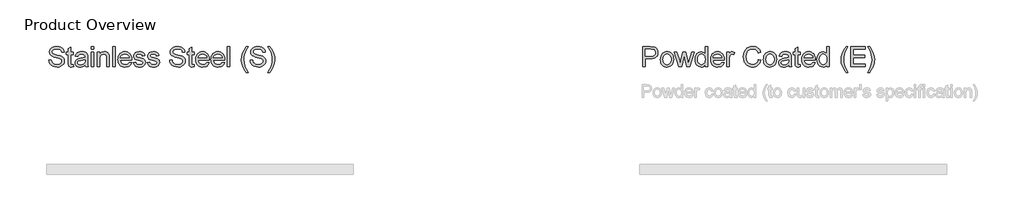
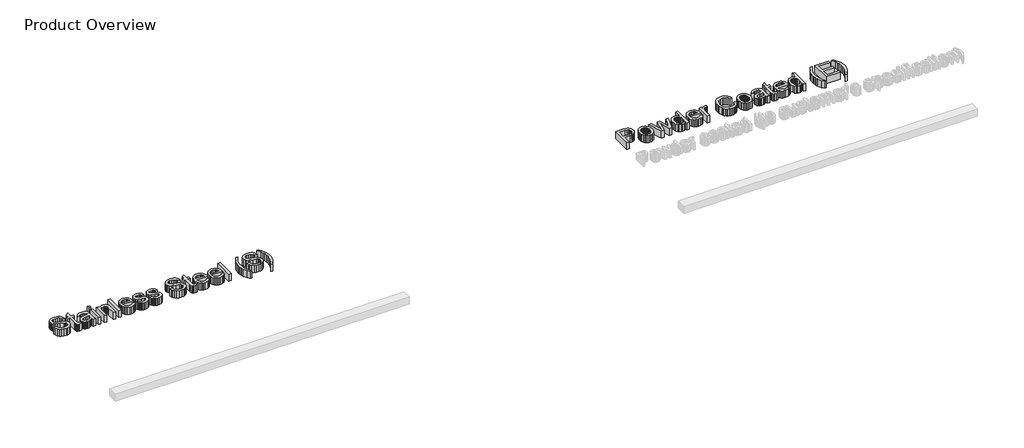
# One storey, part 3 of 11: 2 proxies.
"""IFC4 building model written with IfcOpenShell, lengths in millimetres."""

from ifc_helpers import new_model, si_unit, origin, origin_with_axes, place, context, project, spatial, polyline, outline, extrude, element, save

model = new_model("IFC4")

# Units and contexts
model_context = context("Model", 3, world=origin())
ifc_project = project(units=[si_unit("LENGTHUNIT", "METRE", prefix="MILLI")], contexts=[model_context])

# Site, building, storey
site = spatial("IfcSite", under=ifc_project)
building = spatial("IfcBuilding", under=site)
storey = spatial("IfcBuildingStorey", under=building, Name="Product Overview", Elevation=0.0)

# Proxies
placement = place(None, origin())
element("IfcBuildingElementProxy", 1, Name="400.0", ObjectType="400.0", at=placement, inside=storey, context=model_context, shape_type="SweptSolid", body=[
    extrude(outline(polyline([(-16012.1854011, -17159.1695492), (-15963.2157041, -17159.1695492), (-15957.5966227, -17186.3443834), (-15947.4344541, -17208.1870681), (-15931.5814712, -17225.5225321), (-15908.8899465, -17239.1757045), (-15881.1532041, -17248.0347243), (-15850.1645678, -17250.987731), (-15822.882134, -17248.7520539), (-15798.9950602, -17242.0450226), (-15779.639118, -17231.4285454), (-15765.9500791, -17217.4645302), (-15757.8083888, -17201.4322149), (-15755.094492, -17184.610837), (-15757.1269257, -17168.2198569), (-15763.2242269, -17154.0525984), (-15775.610117, -17141.9655956), (-15796.5083178, -17131.8153825), (-15867.8108746, -17113.1169923), (-15914.6166274, -17100.7430577), (-15944.5651359, -17088.9668976), (-15968.942385, -17072.4922291), (-15986.2180715, -17052.5265567), (-15996.5117505, -17029.5002783), (-15999.9429769, -17003.8437916), (-15995.698777, -16975.1625653), (-15982.9661776, -16948.4181287), (-15962.0799323, -16925.7505151), (-15933.374795, -16909.2997575), (-15898.9190659, -16899.2930103), (-15860.781045, -16895.9574279), (-15819.4628632, -16899.4484317), (-15783.3094541, -16909.9214431), (-15753.6120109, -16927.1612632), (-15731.6617269, -16950.9526931), (-15717.7694447, -16979.8132518), (-15712.2460072, -17012.2604582), (-15761.2157041, -17012.2604582), (-15770.2062344, -16983.0412348), (-15788.9524465, -16961.9517461), (-15818.243403, -16949.1832802), (-15858.8681662, -16944.9271249), (-15900.4493689, -16949.1354582), (-15916.3441961, -16954.3958749), (-15928.9751738, -16961.7604582), (-15945.4737534, -16980.3392935), (-15950.9732799, -17002.4091325), (-15947.0757894, -17021.2270776), (-15935.3833178, -17036.362731), (-15907.7422193, -17049.8963484), (-15855.4249844, -17063.7168976), (-15801.4339806, -17076.8440283), (-15768.7715753, -17088.2973901), (-15740.8555005, -17106.0632518), (-15721.3800034, -17127.9896249), (-15709.9385971, -17153.8373995), (-15706.124795, -17183.3674658), (-15710.5124608, -17213.5550842), (-15723.6754579, -17241.9493787), (-15745.0757894, -17266.3864052), (-15774.1754579, -17284.7022196), (-15809.1691842, -17296.1436259), (-15848.251689, -17299.9574279), (-15896.2290801, -17295.8447386), (-15935.7180715, -17283.5066704), (-15967.1729721, -17262.8954014), (-15991.0480905, -17233.9631098), (-16006.3750318, -17198.7183181), (-16012.1854011, -17159.1695492)])), origin_with_axes(), (0.0, 0.0, 1.0), 150.0),
    extrude(outline(polyline([(-15534.7308556, -17252.9962537), (-15528.6096435, -17295.2708749), (-15565.2412723, -17299.9574279), (-15588.7457704, -17297.9249942), (-15606.2725223, -17291.8276931), (-15618.6584125, -17282.4306761), (-15626.7403253, -17270.4990946), (-15631.1877685, -17250.0073806), (-15632.6702496, -17214.9299658), (-15632.6702496, -17055.1089431), (-15669.3975223, -17055.1089431), (-15669.3975223, -17006.1392461), (-15632.6702496, -17006.1392461), (-15632.6702496, -16936.2235264), (-15583.7005526, -16907.4347007), (-15583.7005526, -17006.1392461), (-15534.7308556, -17006.1392461), (-15534.7308556, -17055.1089431), (-15583.7005526, -17055.1089431), (-15583.7005526, -17213.4953067), (-15581.1181662, -17238.7453067), (-15572.7493215, -17247.6880151), (-15556.0594541, -17250.987731), (-15534.7308556, -17252.9962537)])), origin_with_axes(), (0.0, 0.0, 1.0), 150.0),
    extrude(outline(polyline([(-15302.124795, -17257.1089431), (-15325.5216937, -17277.1702594), (-15349.6120109, -17290.2973901), (-15374.9456994, -17297.5424185), (-15402.0727117, -17299.9574279), (-15423.876541, -17298.5048356), (-15442.9963623, -17294.1470586), (-15459.4321755, -17286.884097), (-15473.1839806, -17276.7159507), (-15484.0425566, -17264.2882163), (-15491.7986823, -17250.2464904), (-15496.4523578, -17234.5907731), (-15498.0035829, -17217.3210643), (-15495.6603064, -17197.0206382), (-15488.6304769, -17178.5852689), (-15477.7868452, -17162.8040189), (-15464.0021625, -17150.4659507), (-15429.7138102, -17134.3977689), (-15387.343545, -17127.0331855), (-15337.2739428, -17119.2860264), (-15302.4117269, -17110.1998522), (-15302.124795, -17099.2964431), (-15305.4962439, -17077.4418029), (-15315.6105905, -17063.143034), (-15338.2303822, -17052.5265567), (-15369.7450602, -17048.987731), (-15398.9164617, -17051.342963), (-15419.2886208, -17058.408659), (-15433.180903, -17071.4760122), (-15442.9126738, -17091.8362158), (-15491.8823708, -17085.7150037), (-15483.3820157, -17058.9347007), (-15470.6972382, -17037.893034), (-15452.6444447, -17021.8009412), (-15428.0400412, -17009.8693598), (-15397.9480668, -17002.4808654), (-15363.4325602, -17000.018034), (-15330.3278017, -17002.1939336), (-15304.0854958, -17008.7216325), (-15284.2991558, -17018.5370918), (-15270.562295, -17030.5762726), (-15261.4522098, -17045.4608607), (-15255.5461965, -17063.8125416), (-15253.1550981, -17106.6610264), (-15253.1550981, -17167.5862158), (-15250.6683556, -17252.6614999), (-15240.9126738, -17293.8362158), (-15289.8823708, -17293.8362158), (-15297.7251738, -17276.8115946), (-15302.124795, -17257.1089431)]), holes=[polyline([(-15302.124795, -17159.1695492), (-15335.0263102, -17167.323195), (-15381.126689, -17174.1856476), (-15423.2578443, -17182.1240946), (-15434.2210308, -17187.5518882), (-15442.3388102, -17195.0360264), (-15447.360117, -17204.0026457), (-15449.0338859, -17213.8778825), (-15445.3874608, -17228.4396723), (-15434.4481852, -17240.3712537), (-15416.4551691, -17248.3336117), (-15391.6475223, -17250.987731), (-15365.345439, -17248.0586353), (-15342.1039617, -17239.2713484), (-15323.2621056, -17226.3235501), (-15310.1588859, -17210.9129204), (-15304.3485166, -17195.0360264), (-15302.4117269, -17173.0379204), (-15302.124795, -17159.1695492)])]), origin_with_axes(), (0.0, 0.0, 1.0), 150.0),
    extrude(outline(polyline([(-15185.8217647, -17293.8362158), (-15185.8217647, -17006.1392461), (-15136.8520678, -17006.1392461), (-15136.8520678, -17293.8362158), (-15185.8217647, -17293.8362158)])), origin_with_axes(), (0.0, 0.0, 1.0), 150.0),
    extrude(outline(polyline([(-15185.8217647, -16951.048337), (-15185.8217647, -16902.0786401), (-15136.8520678, -16902.0786401), (-15136.8520678, -16951.048337), (-15185.8217647, -16951.048337)])), origin_with_axes(), (0.0, 0.0, 1.0), 150.0),
    extrude(outline(polyline([(-15063.3975223, -17293.8362158), (-15063.3975223, -17006.1392461), (-15014.4278253, -17006.1392461), (-15014.4278253, -17046.3097007), (-14997.4151596, -17026.0570965), (-14976.9832231, -17011.5909507), (-14953.1320157, -17002.9112632), (-14925.8615375, -17000.018034), (-14901.7233983, -17002.349355), (-14879.6176928, -17009.3433181), (-14861.1823234, -17020.1271723), (-14848.0551928, -17033.8281666), (-14839.1483509, -17050.4104346), (-14833.3738481, -17069.8381098), (-14830.7914617, -17117.1818598), (-14830.7914617, -17293.8362158), (-14879.7611587, -17293.8362158), (-14879.7611587, -17123.7812916), (-14881.1719068, -17098.4595586), (-14885.4041511, -17080.454587), (-14893.2110876, -17067.5546107), (-14905.3459125, -17057.5478636), (-14920.9000081, -17051.1277641), (-14938.9647572, -17048.987731), (-14967.6459835, -17053.7938389), (-14992.0949655, -17068.2121628), (-15001.8655917, -17079.9823451), (-15008.8446104, -17096.0684601), (-15013.0320216, -17116.470508), (-15014.4278253, -17141.1884886), (-15014.4278253, -17293.8362158), (-15063.3975223, -17293.8362158)])), origin_with_axes(), (0.0, 0.0, 1.0), 150.0),
    extrude(outline(polyline([(-14763.4581284, -17293.8362158), (-14763.4581284, -16902.0786401), (-14714.4884314, -16902.0786401), (-14714.4884314, -17293.8362158), (-14763.4581284, -17293.8362158)])), origin_with_axes(), (0.0, 0.0, 1.0), 150.0),
    extrude(outline(polyline([(-14439.6077496, -17208.1392461), (-14391.594492, -17214.2604582), (-14398.9560865, -17233.4908678), (-14408.8940895, -17250.4377783), (-14421.4085012, -17265.1011898), (-14436.4993215, -17277.4811022), (-14454.0111291, -17287.3144947), (-14473.7885024, -17294.3383465), (-14520.1399465, -17299.9574279), (-14550.5248305, -17297.5334519), (-14577.5980431, -17290.2615236), (-14601.3595843, -17278.1416431), (-14621.8094541, -17261.1738105), (-14638.254234, -17239.8302677), (-14650.0005053, -17214.5832565), (-14657.048268, -17185.4327771), (-14659.3975223, -17152.3788295), (-14657.0243571, -17118.2040544), (-14649.9048613, -17088.0821912), (-14638.0390351, -17062.01324), (-14621.4268784, -17039.9972007), (-14601.0308083, -17022.5063153), (-14577.813242, -17010.0128257), (-14551.7741795, -17002.5167319), (-14522.9136208, -17000.018034), (-14494.9826016, -17002.5107542), (-14469.723635, -17009.9889147), (-14447.1367209, -17022.4525155), (-14427.2218594, -17039.9015567), (-14410.9653786, -17061.8697741), (-14399.3536066, -17087.8909033), (-14392.3865434, -17117.9649445), (-14390.064189, -17152.0918976), (-14390.3511208, -17165.2907613), (-14610.4278253, -17165.2907613), (-14607.5913848, -17184.8320136), (-14601.9513812, -17201.9463011), (-14593.5078147, -17216.6336235), (-14582.2606852, -17228.893981), (-14553.8424797, -17245.4642935), (-14519.1835072, -17250.987731), (-14493.1205337, -17248.4292556), (-14471.1702496, -17240.7538295), (-14453.3326549, -17227.4832329), (-14439.6077496, -17208.1392461)]), holes=[polyline([(-14610.4278253, -17116.3210643), (-14439.0338859, -17116.3210643), (-14445.6572287, -17090.4493787), (-14458.6408935, -17071.9422764), (-14471.9951786, -17061.8996628), (-14487.1906094, -17054.7263673), (-14523.1049087, -17048.987731), (-14556.1140233, -17053.5666846), (-14583.4084125, -17067.3035454), (-14602.3817789, -17088.7158323), (-14610.4278253, -17116.3210643)])]), origin_with_axes(), (0.0, 0.0, 1.0), 150.0),
    extrude(outline(polyline([(-14359.4581284, -17208.1392461), (-14310.4884314, -17202.018034), (-14302.7651833, -17222.9640567), (-14287.8208178, -17238.362731), (-14265.5596909, -17247.831481), (-14235.8861587, -17250.987731), (-14206.5712912, -17248.0945018), (-14185.9600223, -17239.4148143), (-14173.76542, -17226.8376363), (-14169.7005526, -17212.2519355), (-14173.789331, -17199.7704014), (-14186.0556662, -17190.2538295), (-14236.4600223, -17176.2898143), (-14310.2014996, -17152.3310075), (-14328.8640233, -17140.2918266), (-14342.3856852, -17124.3551552), (-14350.5991085, -17105.5372101), (-14353.3369162, -17084.8542082), (-14351.1371056, -17065.8808418), (-14344.5376738, -17048.3660454), (-14334.1363954, -17033.0032376), (-14320.531045, -17020.485837), (-14289.3989428, -17005.9957802), (-14247.2677875, -17000.018034), (-14215.3944447, -17002.421088), (-14187.6816132, -17009.6302499), (-14165.3965753, -17020.9401457), (-14149.8066132, -17035.6454014), (-14139.4770678, -17054.8339668), (-14132.9732799, -17079.5937916), (-14181.9429769, -17085.7150037), (-14188.1239664, -17070.304374), (-14200.3544352, -17058.6955908), (-14218.753938, -17051.4146959), (-14243.4420299, -17048.987731), (-14271.5613481, -17051.3070965), (-14290.3075602, -17058.2651931), (-14300.8523045, -17068.3078067), (-14304.3672193, -17079.8807234), (-14298.532939, -17094.1316704), (-14280.2649465, -17104.9394355), (-14238.0859693, -17115.3646249), (-14166.2095488, -17138.4148143), (-14147.2242269, -17149.4377783), (-14132.829814, -17164.5256098), (-14123.7555952, -17183.7261306), (-14120.7308556, -17207.0871628), (-14124.2816369, -17231.2372575), (-14134.9339806, -17253.9526931), (-14152.2814001, -17273.4521012), (-14175.9174087, -17287.9541136), (-14204.4671246, -17296.9565993), (-14236.5556662, -17299.9574279), (-14262.9115493, -17298.5108134), (-14285.93185, -17294.1709696), (-14305.6165682, -17286.9378967), (-14321.9657041, -17276.8115946), (-14335.3199892, -17263.8398853), (-14346.0201549, -17248.0705908), (-14354.0662013, -17229.5037111), (-14359.4581284, -17208.1392461)])), origin_with_axes(), (0.0, 0.0, 1.0), 150.0),
    extrude(outline(polyline([(-14084.0035829, -17208.1392461), (-14035.0338859, -17202.018034), (-14027.3106378, -17222.9640567), (-14012.3662723, -17238.362731), (-13990.1051454, -17247.831481), (-13960.4316132, -17250.987731), (-13931.1167458, -17248.0945018), (-13910.5054769, -17239.4148143), (-13898.3108746, -17226.8376363), (-13894.2460072, -17212.2519355), (-13898.3347856, -17199.7704014), (-13910.6011208, -17190.2538295), (-13961.0054769, -17176.2898143), (-14034.7469541, -17152.3310075), (-14053.4094778, -17140.2918266), (-14066.9311397, -17124.3551552), (-14075.144563, -17105.5372101), (-14077.8823708, -17084.8542082), (-14075.6825602, -17065.8808418), (-14069.0831284, -17048.3660454), (-14058.68185, -17033.0032376), (-14045.0764996, -17020.485837), (-14013.9443973, -17005.9957802), (-13971.813242, -17000.018034), (-13939.9398992, -17002.421088), (-13912.2270678, -17009.6302499), (-13889.9420299, -17020.9401457), (-13874.3520678, -17035.6454014), (-13864.0225223, -17054.8339668), (-13857.5187344, -17079.5937916), (-13906.4884314, -17085.7150037), (-13912.669421, -17070.304374), (-13924.8998897, -17058.6955908), (-13943.2993926, -17051.4146959), (-13967.9874844, -17048.987731), (-13996.1068026, -17051.3070965), (-14014.8530147, -17058.2651931), (-14025.397759, -17068.3078067), (-14028.9126738, -17079.8807234), (-14023.0783935, -17094.1316704), (-14004.8104011, -17104.9394355), (-13962.6314238, -17115.3646249), (-13890.7550034, -17138.4148143), (-13871.7696814, -17149.4377783), (-13857.3752685, -17164.5256098), (-13848.3010498, -17183.7261306), (-13845.2763102, -17207.0871628), (-13848.8270914, -17231.2372575), (-13859.4794352, -17253.9526931), (-13876.8268547, -17273.4521012), (-13900.4628632, -17287.9541136), (-13929.0125791, -17296.9565993), (-13961.1011208, -17299.9574279), (-13987.4570038, -17298.5108134), (-14010.4773045, -17294.1709696), (-14030.1620228, -17286.9378967), (-14046.5111587, -17276.8115946), (-14059.8654437, -17263.8398853), (-14070.5656094, -17248.0705908), (-14078.6116558, -17229.5037111), (-14084.0035829, -17208.1392461)])), origin_with_axes(), (0.0, 0.0, 1.0), 150.0),
    extrude(outline(polyline([(-13649.3975223, -17159.1695492), (-13600.4278253, -17159.1695492), (-13594.8087439, -17186.3443834), (-13584.6465753, -17208.1870681), (-13568.7935924, -17225.5225321), (-13546.1020678, -17239.1757045), (-13518.3653253, -17248.0347243), (-13487.376689, -17250.987731), (-13460.0942553, -17248.7520539), (-13436.2071814, -17242.0450226), (-13416.8512392, -17231.4285454), (-13403.1622003, -17217.4645302), (-13395.02051, -17201.4322149), (-13392.3066132, -17184.610837), (-13394.3390469, -17168.2198569), (-13400.4363481, -17154.0525984), (-13412.8222382, -17141.9655956), (-13433.720439, -17131.8153825), (-13505.0229958, -17113.1169923), (-13551.8287486, -17100.7430577), (-13581.7772572, -17088.9668976), (-13606.1545062, -17072.4922291), (-13623.4301928, -17052.5265567), (-13633.7238717, -17029.5002783), (-13637.1550981, -17003.8437916), (-13632.9108983, -16975.1625653), (-13620.1782988, -16948.4181287), (-13599.2920536, -16925.7505151), (-13570.5869162, -16909.2997575), (-13536.1311871, -16899.2930103), (-13497.9931662, -16895.9574279), (-13456.6749844, -16899.4484317), (-13420.5215753, -16909.9214431), (-13390.8241322, -16927.1612632), (-13368.8738481, -16950.9526931), (-13354.9815659, -16979.8132518), (-13349.4581284, -17012.2604582), (-13398.4278253, -17012.2604582), (-13407.4183556, -16983.0412348), (-13426.1645678, -16961.9517461), (-13455.4555242, -16949.1832802), (-13496.0802875, -16944.9271249), (-13537.6614901, -16949.1354582), (-13553.5563173, -16954.3958749), (-13566.187295, -16961.7604582), (-13582.6858746, -16980.3392935), (-13588.1854011, -17002.4091325), (-13584.2879106, -17021.2270776), (-13572.595439, -17036.362731), (-13544.9543405, -17049.8963484), (-13492.6371056, -17063.7168976), (-13438.6461019, -17076.8440283), (-13405.9836965, -17088.2973901), (-13378.0676217, -17106.0632518), (-13358.5921246, -17127.9896249), (-13347.1507183, -17153.8373995), (-13343.3369162, -17183.3674658), (-13347.724582, -17213.5550842), (-13360.8875791, -17241.9493787), (-13382.2879106, -17266.3864052), (-13411.3875791, -17284.7022196), (-13446.3813055, -17296.1436259), (-13485.4638102, -17299.9574279), (-13533.4412013, -17295.8447386), (-13572.9301928, -17283.5066704), (-13604.3850933, -17262.8954014), (-13628.2602117, -17233.9631098), (-13643.587153, -17198.7183181), (-13649.3975223, -17159.1695492)])), origin_with_axes(), (0.0, 0.0, 1.0), 150.0),
    extrude(outline(polyline([(-13171.9429769, -17252.9962537), (-13165.8217647, -17295.2708749), (-13202.4533935, -17299.9574279), (-13225.9578916, -17297.9249942), (-13243.4846435, -17291.8276931), (-13255.8705337, -17282.4306761), (-13263.9524465, -17270.4990946), (-13268.3998897, -17250.0073806), (-13269.8823708, -17214.9299658), (-13269.8823708, -17055.1089431), (-13306.6096435, -17055.1089431), (-13306.6096435, -17006.1392461), (-13269.8823708, -17006.1392461), (-13269.8823708, -16936.2235264), (-13220.9126738, -16907.4347007), (-13220.9126738, -17006.1392461), (-13171.9429769, -17006.1392461), (-13171.9429769, -17055.1089431), (-13220.9126738, -17055.1089431), (-13220.9126738, -17213.4953067), (-13218.3302875, -17238.7453067), (-13209.9614428, -17247.6880151), (-13193.2715753, -17250.987731), (-13171.9429769, -17252.9962537)])), origin_with_axes(), (0.0, 0.0, 1.0), 150.0),
    extrude(outline(polyline([(-12921.5471435, -17208.1392461), (-12873.5338859, -17214.2604582), (-12880.8954804, -17233.4908678), (-12890.8334835, -17250.4377783), (-12903.3478952, -17265.1011898), (-12918.4387155, -17277.4811022), (-12935.950523, -17287.3144947), (-12955.7278964, -17294.3383465), (-13002.0793405, -17299.9574279), (-13032.4642245, -17297.5334519), (-13059.5374371, -17290.2615236), (-13083.2989783, -17278.1416431), (-13103.7488481, -17261.1738105), (-13120.1936279, -17239.8302677), (-13131.9398992, -17214.5832565), (-13138.987662, -17185.4327771), (-13141.3369162, -17152.3788295), (-13138.963751, -17118.2040544), (-13131.8442553, -17088.0821912), (-13119.978429, -17062.01324), (-13103.3662723, -17039.9972007), (-13082.9702022, -17022.5063153), (-13059.7526359, -17010.0128257), (-13033.7135734, -17002.5167319), (-13004.8530147, -17000.018034), (-12976.9219956, -17002.5107542), (-12951.6630289, -17009.9889147), (-12929.0761149, -17022.4525155), (-12909.1612534, -17039.9015567), (-12892.9047725, -17061.8697741), (-12881.2930005, -17087.8909033), (-12874.3259373, -17117.9649445), (-12872.0035829, -17152.0918976), (-12872.2905147, -17165.2907613), (-13092.3672193, -17165.2907613), (-13089.5307787, -17184.8320136), (-13083.8907751, -17201.9463011), (-13075.4472086, -17216.6336235), (-13064.2000791, -17228.893981), (-13035.7818736, -17245.4642935), (-13001.1229011, -17250.987731), (-12975.0599276, -17248.4292556), (-12953.1096435, -17240.7538295), (-12935.2720488, -17227.4832329), (-12921.5471435, -17208.1392461)]), holes=[polyline([(-13092.3672193, -17116.3210643), (-12920.9732799, -17116.3210643), (-12927.5966227, -17090.4493787), (-12940.5802875, -17071.9422764), (-12953.9345725, -17061.8996628), (-12969.1300034, -17054.7263673), (-13005.0443026, -17048.987731), (-13038.0534172, -17053.5666846), (-13065.3478064, -17067.3035454), (-13084.3211729, -17088.7158323), (-13092.3672193, -17116.3210643)])]), origin_with_axes(), (0.0, 0.0, 1.0), 150.0),
    extrude(outline(polyline([(-12621.6077496, -17208.1392461), (-12573.594492, -17214.2604582), (-12580.9560865, -17233.4908678), (-12590.8940895, -17250.4377783), (-12603.4085012, -17265.1011898), (-12618.4993215, -17277.4811022), (-12636.0111291, -17287.3144947), (-12655.7885024, -17294.3383465), (-12702.1399465, -17299.9574279), (-12732.5248305, -17297.5334519), (-12759.5980431, -17290.2615236), (-12783.3595843, -17278.1416431), (-12803.8094541, -17261.1738105), (-12820.254234, -17239.8302677), (-12832.0005053, -17214.5832565), (-12839.048268, -17185.4327771), (-12841.3975223, -17152.3788295), (-12839.0243571, -17118.2040544), (-12831.9048613, -17088.0821912), (-12820.0390351, -17062.01324), (-12803.4268784, -17039.9972007), (-12783.0308083, -17022.5063153), (-12759.813242, -17010.0128257), (-12733.7741795, -17002.5167319), (-12704.9136208, -17000.018034), (-12676.9826016, -17002.5107542), (-12651.723635, -17009.9889147), (-12629.1367209, -17022.4525155), (-12609.2218594, -17039.9015567), (-12592.9653786, -17061.8697741), (-12581.3536066, -17087.8909033), (-12574.3865434, -17117.9649445), (-12572.064189, -17152.0918976), (-12572.3511208, -17165.2907613), (-12792.4278253, -17165.2907613), (-12789.5913848, -17184.8320136), (-12783.9513812, -17201.9463011), (-12775.5078147, -17216.6336235), (-12764.2606852, -17228.893981), (-12735.8424797, -17245.4642935), (-12701.1835072, -17250.987731), (-12675.1205337, -17248.4292556), (-12653.1702496, -17240.7538295), (-12635.3326549, -17227.4832329), (-12621.6077496, -17208.1392461)]), holes=[polyline([(-12792.4278253, -17116.3210643), (-12621.0338859, -17116.3210643), (-12627.6572287, -17090.4493787), (-12640.6408935, -17071.9422764), (-12653.9951786, -17061.8996628), (-12669.1906094, -17054.7263673), (-12705.1049087, -17048.987731), (-12738.1140233, -17053.5666846), (-12765.4084125, -17067.3035454), (-12784.3817789, -17088.7158323), (-12792.4278253, -17116.3210643)])]), origin_with_axes(), (0.0, 0.0, 1.0), 150.0),
    extrude(outline(polyline([(-12523.094492, -17293.8362158), (-12523.094492, -16902.0786401), (-12474.124795, -16902.0786401), (-12474.124795, -17293.8362158), (-12523.094492, -17293.8362158)])), origin_with_axes(), (0.0, 0.0, 1.0), 150.0),
    extrude(outline(polyline([(-12149.7005526, -17404.018034), (-12187.6472856, -17350.7682707), (-12219.2336965, -17289.1496628), (-12231.6614309, -17255.9492603), (-12240.538384, -17222.1510832), (-12245.8645559, -17187.7551315), (-12247.6399465, -17152.7614052), (-12242.3317079, -17091.9079488), (-12226.406992, -17033.6847007), (-12194.79667, -16967.7382045), (-12149.7005526, -16902.0786401), (-12112.9732799, -16902.0786401), (-12158.7867269, -16979.6458749), (-12174.4245109, -17016.4687916), (-12186.3321814, -17054.8220113), (-12195.5857325, -17103.8156192), (-12198.6702496, -17153.048337), (-12193.314189, -17215.8266278), (-12177.2460072, -17278.5810075), (-12150.4657041, -17341.3114762), (-12112.9732799, -17404.018034), (-12149.7005526, -17404.018034)])), origin_with_axes(), (0.0, 0.0, 1.0), 150.0),
    extrude(outline(polyline([(-12076.2460072, -17159.1695492), (-12027.2763102, -17159.1695492), (-12021.6572287, -17186.3443834), (-12011.4950602, -17208.1870681), (-11995.6420772, -17225.5225321), (-11972.9505526, -17239.1757045), (-11945.2138102, -17248.0347243), (-11914.2251738, -17250.987731), (-11886.9427401, -17248.7520539), (-11863.0556662, -17242.0450226), (-11843.699724, -17231.4285454), (-11830.0106852, -17217.4645302), (-11821.8689948, -17201.4322149), (-11819.1550981, -17184.610837), (-11821.1875318, -17168.2198569), (-11827.2848329, -17154.0525984), (-11839.6707231, -17141.9655956), (-11860.5689238, -17131.8153825), (-11931.8714806, -17113.1169923), (-11978.6772335, -17100.7430577), (-12008.625742, -17088.9668976), (-12033.0029911, -17072.4922291), (-12050.2786776, -17052.5265567), (-12060.5723566, -17029.5002783), (-12064.0035829, -17003.8437916), (-12059.7593831, -16975.1625653), (-12047.0267837, -16948.4181287), (-12026.1405384, -16925.7505151), (-11997.4354011, -16909.2997575), (-11962.9796719, -16899.2930103), (-11924.8416511, -16895.9574279), (-11883.5234693, -16899.4484317), (-11847.3700602, -16909.9214431), (-11817.672617, -16927.1612632), (-11795.7223329, -16950.9526931), (-11781.8300507, -16979.8132518), (-11776.3066132, -17012.2604582), (-11825.2763102, -17012.2604582), (-11834.2668405, -16983.0412348), (-11853.0130526, -16961.9517461), (-11882.304009, -16949.1832802), (-11922.9287723, -16944.9271249), (-11964.509975, -16949.1354582), (-11980.4048021, -16954.3958749), (-11993.0357799, -16961.7604582), (-12009.5343594, -16980.3392935), (-12015.0338859, -17002.4091325), (-12011.1363954, -17021.2270776), (-11999.4439238, -17036.362731), (-11971.8028253, -17049.8963484), (-11919.4855905, -17063.7168976), (-11865.4945867, -17076.8440283), (-11832.8321814, -17088.2973901), (-11804.9161066, -17106.0632518), (-11785.4406094, -17127.9896249), (-11773.9992032, -17153.8373995), (-11770.1854011, -17183.3674658), (-11774.5730668, -17213.5550842), (-11787.736064, -17241.9493787), (-11809.1363954, -17266.3864052), (-11838.236064, -17284.7022196), (-11873.2297903, -17296.1436259), (-11912.312295, -17299.9574279), (-11960.2896861, -17295.8447386), (-11999.7786776, -17283.5066704), (-12031.2335782, -17262.8954014), (-12055.1086965, -17233.9631098), (-12070.4356378, -17198.7183181), (-12076.2460072, -17159.1695492)])), origin_with_axes(), (0.0, 0.0, 1.0), 150.0),
    extrude(outline(polyline([(-11690.6096435, -17404.018034), (-11727.3369162, -17404.018034), (-11689.844492, -17341.3114762), (-11663.064189, -17278.5810075), (-11646.9960072, -17215.8266278), (-11641.6399465, -17153.048337), (-11644.7244636, -17104.174284), (-11653.9780147, -17055.6828067), (-11665.6704863, -17017.2578541), (-11681.2365375, -16980.4110264), (-11727.3369162, -16902.0786401), (-11690.6096435, -16902.0786401), (-11645.5135261, -16967.7382045), (-11613.9032041, -17033.6847007), (-11597.9784882, -17091.9079488), (-11592.6702496, -17152.7614052), (-11594.4546068, -17187.7551315), (-11599.8076786, -17222.1510832), (-11608.7294648, -17255.9492603), (-11621.2199655, -17289.1496628), (-11652.842243, -17350.7682707), (-11690.6096435, -17404.018034)])), origin_with_axes(), (0.0, 0.0, 1.0), 150.0),
])
element("IfcBuildingElementProxy", 2, Name="400.0", ObjectType="400.0", at=placement, inside=storey, context=model_context, shape_type="SweptSolid", body=[
    extrude(outline(polyline([(-4393.8217647, -17293.8362158), (-4393.8217647, -16902.0786401), (-4248.6342647, -16902.0786401), (-4190.1001738, -16905.8087537), (-4164.0013339, -16912.7788058), (-4142.517314, -16924.1245681), (-4125.2177164, -16940.3601268), (-4111.6721435, -16961.9995681), (-4102.9207231, -16987.5245444), (-4100.0035829, -17015.4167082), (-4101.9732503, -17039.4651813), (-4107.8822524, -17061.58882), (-4117.7305893, -17081.7876244), (-4131.5182609, -17100.0615946), (-4150.4467943, -17115.2092035), (-4175.7177164, -17126.0289242), (-4207.3310273, -17132.5207565), (-4245.2867269, -17134.6847007), (-4344.8520678, -17134.6847007), (-4344.8520678, -17293.8362158), (-4393.8217647, -17293.8362158)]), holes=[polyline([(-4344.8520678, -17085.7150037), (-4242.4174087, -17085.7150037), (-4198.9950602, -17081.2197386), (-4182.8073234, -17075.6006571), (-4170.3018784, -17067.7339431), (-4160.9706165, -17057.8288176), (-4154.3054295, -17046.0945018), (-4148.9732799, -17017.1382992), (-4152.1175744, -16995.1401931), (-4161.5504579, -16976.5852689), (-4176.1002922, -16962.6212537), (-4194.595439, -16954.3958749), (-4243.5651359, -16951.048337), (-4344.8520678, -16951.048337), (-4344.8520678, -17085.7150037)])]), origin_with_axes(), (0.0, 0.0, 1.0), 150.0),
    extrude(outline(polyline([(-4051.0338859, -17149.987731), (-4048.3857444, -17112.7284388), (-4040.4413197, -17080.6219639), (-4027.2006118, -17053.6683063), (-4008.6636208, -17031.8674658), (-3990.0010971, -17017.9333394), (-3969.4017837, -17007.980392), (-3946.8656805, -17002.0086235), (-3922.3927875, -17000.018034), (-3895.3763635, -17002.4420101), (-3870.9483036, -17009.7139384), (-3849.1086078, -17021.8338188), (-3829.8572761, -17038.8016514), (-3814.1447702, -17060.0435726), (-3802.9215517, -17084.9857187), (-3796.1876206, -17113.6280896), (-3793.9429769, -17145.9706855), (-3797.9122003, -17195.4425132), (-3809.8198708, -17233.1023143), (-3829.3192789, -17261.3053209), (-3856.0637155, -17282.4067651), (-3887.8294589, -17295.5697622), (-3922.3927875, -17299.9574279), (-3949.8037427, -17297.5424185), (-3974.458957, -17290.2973901), (-3996.3584302, -17278.2223427), (-4015.5021625, -17261.3172764), (-4031.0472915, -17239.869123), (-4042.1509551, -17214.1648143), (-4048.8131532, -17184.2043503), (-4051.0338859, -17149.987731)]), holes=[polyline([(-4002.064189, -17149.892087), (-4000.6474631, -17173.6446616), (-3996.3972856, -17194.2110975), (-3989.3136563, -17211.5913946), (-3979.3965753, -17225.7855529), (-3967.3334835, -17236.8115058), (-3953.8118215, -17244.6871865), (-3938.8315895, -17249.4125949), (-3922.3927875, -17250.987731), (-3906.0376738, -17249.4036282), (-3891.1172193, -17244.65132), (-3877.6314238, -17236.7308063), (-3865.5802875, -17225.642087), (-3855.6632065, -17211.3074516), (-3848.5795772, -17193.6491893), (-3844.3293997, -17172.6673001), (-3842.9126738, -17148.361784), (-3844.3383663, -17125.3624055), (-3848.6154437, -17105.3339668), (-3855.7439061, -17088.276468), (-3865.7237534, -17074.189909), (-3877.8197228, -17063.1639561), (-3891.2965517, -17055.2882755), (-3906.1542399, -17050.5628671), (-3922.3927875, -17048.987731), (-3938.8315895, -17050.5568894), (-3953.8118215, -17055.2643645), (-3967.3334835, -17063.1101564), (-3979.3965753, -17074.0942651), (-3989.3136563, -17088.2465792), (-3996.3972856, -17105.5969876), (-4000.6474631, -17126.1454902), (-4002.064189, -17149.892087)])]), origin_with_axes(), (0.0, 0.0, 1.0), 150.0),
    extrude(outline(polyline([(-3691.125742, -17293.8362158), (-3778.6399465, -17006.1392461), (-3727.7573708, -17006.1392461), (-3678.1181662, -17173.9943598), (-3663.2933556, -17233.9631098), (-3651.1465753, -17176.1941704), (-3611.6456284, -17006.1392461), (-3553.3028253, -17006.1392461), (-3513.9931662, -17175.7159507), (-3503.1854011, -17228.0331855), (-3487.6910829, -17172.8466325), (-3437.9562344, -17006.1392461), (-3386.8823708, -17006.1392461), (-3475.0660829, -17293.8362158), (-3534.2696814, -17293.8362158), (-3571.8577496, -17125.1203067), (-3582.7611587, -17072.5161401), (-3631.2526359, -17293.8362158), (-3691.125742, -17293.8362158)])), origin_with_axes(), (0.0, 0.0, 1.0), 150.0),
    extrude(outline(polyline([(-3175.7005526, -17293.8362158), (-3175.7005526, -17247.6401931), (-3190.3520086, -17270.5289833), (-3208.0999371, -17286.8781192), (-3228.9443381, -17296.6876008), (-3252.8852117, -17299.9574279), (-3284.5433556, -17295.2230529), (-3313.5234693, -17281.0199279), (-3338.0561397, -17258.3403588), (-3356.3719541, -17228.1766514), (-3367.7774939, -17191.748266), (-3371.5793405, -17150.2746628), (-3368.0763812, -17109.3151457), (-3357.5675034, -17072.3248522), (-3340.0646625, -17041.4079488), (-3315.579814, -17018.6686022), (-3285.9660592, -17004.6806761), (-3253.0764996, -17000.018034), (-3229.1176928, -17003.3536164), (-3207.9325602, -17013.3603636), (-3189.9754106, -17028.6992603), (-3175.7005526, -17048.0312916), (-3175.7005526, -16902.0786401), (-3126.7308556, -16902.0786401), (-3126.7308556, -17293.8362158), (-3175.7005526, -17293.8362158)]), holes=[polyline([(-3322.6096435, -17150.0833749), (-3317.086206, -17194.3784743), (-3310.1819091, -17211.7288827), (-3300.5158935, -17225.8811969), (-3276.4375318, -17244.7110975), (-3262.9098921, -17249.4185726), (-3248.3899465, -17250.987731), (-3220.3543168, -17244.9980293), (-3196.8856852, -17227.0289242), (-3187.6171897, -17213.4684069), (-3180.9968358, -17196.7456618), (-3175.7005526, -17153.8134886), (-3181.0924797, -17106.8762253), (-3187.8323885, -17088.8054985), (-3197.2682609, -17074.3333749), (-3208.6767896, -17063.2446557), (-3221.3346672, -17055.324142), (-3235.2418938, -17050.5718337), (-3250.3984693, -17048.987731), (-3265.2053466, -17050.5090674), (-3278.7329863, -17055.0730766), (-3290.9813883, -17062.6797587), (-3301.9505526, -17073.3291136), (-3310.9889049, -17087.2542734), (-3317.4448708, -17104.6883702), (-3322.6096435, -17150.0833749)])]), origin_with_axes(), (0.0, 0.0, 1.0), 150.0),
    extrude(outline(polyline([(-2851.8501738, -17208.1392461), (-2803.8369162, -17214.2604582), (-2811.1985107, -17233.4908678), (-2821.1365138, -17250.4377783), (-2833.6509255, -17265.1011898), (-2848.7417458, -17277.4811022), (-2866.2535533, -17287.3144947), (-2886.0309267, -17294.3383465), (-2932.3823708, -17299.9574279), (-2962.7672548, -17297.5334519), (-2989.8404674, -17290.2615236), (-3013.6020086, -17278.1416431), (-3034.0518784, -17261.1738105), (-3050.4966582, -17239.8302677), (-3062.2429295, -17214.5832565), (-3069.2906923, -17185.4327771), (-3071.6399465, -17152.3788295), (-3069.2667813, -17118.2040544), (-3062.1472856, -17088.0821912), (-3050.2814593, -17062.01324), (-3033.6693026, -17039.9972007), (-3013.2732325, -17022.5063153), (-2990.0556662, -17010.0128257), (-2964.0166037, -17002.5167319), (-2935.156045, -17000.018034), (-2907.2250259, -17002.5107542), (-2881.9660592, -17009.9889147), (-2859.3791452, -17022.4525155), (-2839.4642837, -17039.9015567), (-2823.2078028, -17061.8697741), (-2811.5960308, -17087.8909033), (-2804.6289676, -17117.9649445), (-2802.3066132, -17152.0918976), (-2802.593545, -17165.2907613), (-3022.6702496, -17165.2907613), (-3019.833809, -17184.8320136), (-3014.1938055, -17201.9463011), (-3005.7502389, -17216.6336235), (-2994.5031094, -17228.893981), (-2966.0849039, -17245.4642935), (-2931.4259314, -17250.987731), (-2905.3629579, -17248.4292556), (-2883.4126738, -17240.7538295), (-2865.5750791, -17227.4832329), (-2851.8501738, -17208.1392461)]), holes=[polyline([(-3022.6702496, -17116.3210643), (-2851.2763102, -17116.3210643), (-2857.899653, -17090.4493787), (-2870.8833178, -17071.9422764), (-2884.2376028, -17061.8996628), (-2899.4330337, -17054.7263673), (-2935.3473329, -17048.987731), (-2968.3564475, -17053.5666846), (-2995.6508367, -17067.3035454), (-3014.6242032, -17088.7158323), (-3022.6702496, -17116.3210643)])]), origin_with_axes(), (0.0, 0.0, 1.0), 150.0),
    extrude(outline(polyline([(-2753.3369162, -17293.8362158), (-2753.3369162, -17006.1392461), (-2710.4884314, -17006.1392461), (-2710.4884314, -17048.7007992), (-2694.6593594, -17024.0246628), (-2680.0736587, -17009.486784), (-2665.4401359, -17002.3852215), (-2649.4675981, -17000.018034), (-2625.0783935, -17003.7959696), (-2600.3066132, -17015.1297764), (-2616.6617269, -17059.0303446), (-2633.8776359, -17051.4983844), (-2651.093545, -17048.987731), (-2665.7151123, -17051.4027404), (-2678.7824655, -17058.6477689), (-2689.3391653, -17070.1728636), (-2696.4287723, -17085.4280719), (-2702.3826075, -17112.7822386), (-2704.3672193, -17142.6231476), (-2704.3672193, -17293.8362158), (-2753.3369162, -17293.8362158)])), origin_with_axes(), (0.0, 0.0, 1.0), 150.0),
    extrude(outline(polyline([(-2135.094492, -17154.5786401), (-2086.124795, -17167.2036401), (-2095.8147216, -17197.6572681), (-2108.7206757, -17224.2672054), (-2124.8426572, -17247.0334519), (-2144.1806662, -17265.9560075), (-2166.2983272, -17280.8316289), (-2190.7592647, -17291.4570728), (-2217.5634787, -17297.8323392), (-2246.7109693, -17299.9574279), (-2276.5728005, -17298.3494142), (-2303.5115138, -17293.525373), (-2327.5271092, -17285.4853044), (-2348.6195867, -17274.2292082), (-2367.078867, -17259.9244616), (-2383.1948708, -17242.7384412), (-2396.9675981, -17222.6711472), (-2408.3970488, -17199.7225795), (-2423.7837676, -17149.1508465), (-2428.9126738, -17094.9924658), (-2423.11426, -17037.869123), (-2415.8662427, -17012.2305695), (-2405.7190185, -16988.5407613), (-2392.8997418, -16967.1912407), (-2377.6355668, -16948.5735501), (-2359.9264937, -16932.6876895), (-2339.7725223, -16919.533659), (-2294.8676928, -16901.8514857), (-2245.6588859, -16895.9574279), (-2217.6501561, -16897.864329), (-2191.9667695, -16903.5850321), (-2168.6087261, -16913.1195373), (-2147.5760261, -16926.4678446), (-2129.2153786, -16943.277267), (-2113.873493, -16963.1951173), (-2101.5503691, -16986.2213957), (-2092.2460072, -17012.3561022), (-2141.2157041, -17024.0246628), (-2158.1925034, -16988.3136069), (-2181.3861587, -16963.8168029), (-2211.0836019, -16949.6495444), (-2247.5717647, -16944.9271249), (-2289.6311871, -16950.1636306), (-2324.1825602, -16965.8731476), (-2350.4009551, -16990.4058181), (-2367.4614428, -17022.111784), (-2376.8225933, -17057.9543503), (-2379.9429769, -17094.8968219), (-2376.2487297, -17140.1364052), (-2365.1659882, -17179.2547764), (-2346.2763102, -17210.757499), (-2319.1612534, -17233.1501363), (-2286.6542695, -17246.5283323), (-2251.5888102, -17250.987731), (-2230.2990671, -17249.4693834), (-2210.7129816, -17244.9143408), (-2192.8305538, -17237.3226031), (-2176.6517837, -17226.6941704), (-2162.559247, -17213.0768645), (-2150.9355195, -17196.5185075), (-2141.7806011, -17177.0190993), (-2135.094492, -17154.5786401)])), origin_with_axes(), (0.0, 0.0, 1.0), 150.0),
    extrude(outline(polyline([(-2037.1550981, -17149.987731), (-2034.5069565, -17112.7284388), (-2026.5625318, -17080.6219639), (-2013.3218239, -17053.6683063), (-1994.7848329, -17031.8674658), (-1976.1223092, -17017.9333394), (-1955.5229958, -17007.980392), (-1932.9868926, -17002.0086235), (-1908.5139996, -17000.018034), (-1881.4975756, -17002.4420101), (-1857.0695157, -17009.7139384), (-1835.2298199, -17021.8338188), (-1815.9784882, -17038.8016514), (-1800.2659823, -17060.0435726), (-1789.0427638, -17084.9857187), (-1782.3088327, -17113.6280896), (-1780.064189, -17145.9706855), (-1784.0334125, -17195.4425132), (-1795.9410829, -17233.1023143), (-1815.4404911, -17261.3053209), (-1842.1849276, -17282.4067651), (-1873.950671, -17295.5697622), (-1908.5139996, -17299.9574279), (-1935.9249548, -17297.5424185), (-1960.5801691, -17290.2973901), (-1982.4796423, -17278.2223427), (-2001.6233746, -17261.3172764), (-2017.1685036, -17239.869123), (-2028.2721672, -17214.1648143), (-2034.9343653, -17184.2043503), (-2037.1550981, -17149.987731)]), holes=[polyline([(-1988.1854011, -17149.892087), (-1986.7686752, -17173.6446616), (-1982.5184977, -17194.2110975), (-1975.4348684, -17211.5913946), (-1965.5177875, -17225.7855529), (-1953.4546956, -17236.8115058), (-1939.9330337, -17244.6871865), (-1924.9528017, -17249.4125949), (-1908.5139996, -17250.987731), (-1892.1588859, -17249.4036282), (-1877.2384314, -17244.65132), (-1863.7526359, -17236.7308063), (-1851.7014996, -17225.642087), (-1841.7844186, -17211.3074516), (-1834.7007894, -17193.6491893), (-1830.4506118, -17172.6673001), (-1829.0338859, -17148.361784), (-1830.4595784, -17125.3624055), (-1834.7366558, -17105.3339668), (-1841.8651182, -17088.276468), (-1851.8449655, -17074.189909), (-1863.9409349, -17063.1639561), (-1877.4177638, -17055.2882755), (-1892.275452, -17050.5628671), (-1908.5139996, -17048.987731), (-1924.9528017, -17050.5568894), (-1939.9330337, -17055.2643645), (-1953.4546956, -17063.1101564), (-1965.5177875, -17074.0942651), (-1975.4348684, -17088.2465792), (-1982.5184977, -17105.5969876), (-1986.7686752, -17126.1454902), (-1988.1854011, -17149.892087)])]), origin_with_axes(), (0.0, 0.0, 1.0), 150.0),
    extrude(outline(polyline([(-1541.3369162, -17257.1089431), (-1564.7338149, -17277.1702594), (-1588.8241322, -17290.2973901), (-1614.1578206, -17297.5424185), (-1641.2848329, -17299.9574279), (-1663.0886622, -17298.5048356), (-1682.2084835, -17294.1470586), (-1698.6442967, -17286.884097), (-1712.3961019, -17276.7159507), (-1723.2546778, -17264.2882163), (-1731.0108036, -17250.2464904), (-1735.664479, -17234.5907731), (-1737.2157041, -17217.3210643), (-1734.8724276, -17197.0206382), (-1727.8425981, -17178.5852689), (-1716.9989664, -17162.8040189), (-1703.2142837, -17150.4659507), (-1668.9259314, -17134.3977689), (-1626.5556662, -17127.0331855), (-1576.486064, -17119.2860264), (-1541.6238481, -17110.1998522), (-1541.3369162, -17099.2964431), (-1544.7083651, -17077.4418029), (-1554.8227117, -17063.143034), (-1577.4425034, -17052.5265567), (-1608.9571814, -17048.987731), (-1638.1285829, -17051.342963), (-1658.500742, -17058.408659), (-1672.3930242, -17071.4760122), (-1682.124795, -17091.8362158), (-1731.094492, -17085.7150037), (-1722.5941369, -17058.9347007), (-1709.9093594, -17037.893034), (-1691.8565659, -17021.8009412), (-1667.2521625, -17009.8693598), (-1637.160188, -17002.4808654), (-1602.6446814, -17000.018034), (-1569.5399229, -17002.1939336), (-1543.297617, -17008.7216325), (-1523.511277, -17018.5370918), (-1509.7744162, -17030.5762726), (-1500.664331, -17045.4608607), (-1494.7583178, -17063.8125416), (-1492.3672193, -17106.6610264), (-1492.3672193, -17167.5862158), (-1489.8804769, -17252.6614999), (-1480.124795, -17293.8362158), (-1529.094492, -17293.8362158), (-1536.937295, -17276.8115946), (-1541.3369162, -17257.1089431)]), holes=[polyline([(-1541.3369162, -17159.1695492), (-1574.2384314, -17167.323195), (-1620.3388102, -17174.1856476), (-1662.4699655, -17182.1240946), (-1673.433152, -17187.5518882), (-1681.5509314, -17195.0360264), (-1686.5722382, -17204.0026457), (-1688.2460072, -17213.8778825), (-1684.599582, -17228.4396723), (-1673.6603064, -17240.3712537), (-1655.6672903, -17248.3336117), (-1630.8596435, -17250.987731), (-1604.5575602, -17248.0586353), (-1581.3160829, -17239.2713484), (-1562.4742269, -17226.3235501), (-1549.3710072, -17210.9129204), (-1543.5606378, -17195.0360264), (-1541.6238481, -17173.0379204), (-1541.3369162, -17159.1695492)])]), origin_with_axes(), (0.0, 0.0, 1.0), 150.0),
    extrude(outline(polyline([(-1320.9732799, -17252.9962537), (-1314.8520678, -17295.2708749), (-1351.4836965, -17299.9574279), (-1374.9881947, -17297.9249942), (-1392.5149465, -17291.8276931), (-1404.9008367, -17282.4306761), (-1412.9827496, -17270.4990946), (-1417.4301928, -17250.0073806), (-1418.9126738, -17214.9299658), (-1418.9126738, -17055.1089431), (-1455.6399465, -17055.1089431), (-1455.6399465, -17006.1392461), (-1418.9126738, -17006.1392461), (-1418.9126738, -16936.2235264), (-1369.9429769, -16907.4347007), (-1369.9429769, -17006.1392461), (-1320.9732799, -17006.1392461), (-1320.9732799, -17055.1089431), (-1369.9429769, -17055.1089431), (-1369.9429769, -17213.4953067), (-1367.3605905, -17238.7453067), (-1358.9917458, -17247.6880151), (-1342.3018784, -17250.987731), (-1320.9732799, -17252.9962537)])), origin_with_axes(), (0.0, 0.0, 1.0), 150.0),
    extrude(outline(polyline([(-1070.5774465, -17208.1392461), (-1022.564189, -17214.2604582), (-1029.9257834, -17233.4908678), (-1039.8637865, -17250.4377783), (-1052.3781982, -17265.1011898), (-1067.4690185, -17277.4811022), (-1084.980826, -17287.3144947), (-1104.7581994, -17294.3383465), (-1151.1096435, -17299.9574279), (-1181.4945275, -17297.5334519), (-1208.5677401, -17290.2615236), (-1232.3292813, -17278.1416431), (-1252.7791511, -17261.1738105), (-1269.2239309, -17239.8302677), (-1280.9702022, -17214.5832565), (-1288.017965, -17185.4327771), (-1290.3672193, -17152.3788295), (-1287.994054, -17118.2040544), (-1280.8745583, -17088.0821912), (-1269.0087321, -17062.01324), (-1252.3965753, -17039.9972007), (-1232.0005053, -17022.5063153), (-1208.782939, -17010.0128257), (-1182.7438765, -17002.5167319), (-1153.8833178, -17000.018034), (-1125.9522986, -17002.5107542), (-1100.693332, -17009.9889147), (-1078.1064179, -17022.4525155), (-1058.1915564, -17039.9015567), (-1041.9350756, -17061.8697741), (-1030.3233036, -17087.8909033), (-1023.3562403, -17117.9649445), (-1021.0338859, -17152.0918976), (-1021.3208178, -17165.2907613), (-1241.3975223, -17165.2907613), (-1238.5610817, -17184.8320136), (-1232.9210782, -17201.9463011), (-1224.4775117, -17216.6336235), (-1213.2303822, -17228.893981), (-1184.8121767, -17245.4642935), (-1150.1532041, -17250.987731), (-1124.0902306, -17248.4292556), (-1102.1399465, -17240.7538295), (-1084.3023519, -17227.4832329), (-1070.5774465, -17208.1392461)]), holes=[polyline([(-1241.3975223, -17116.3210643), (-1070.0035829, -17116.3210643), (-1076.6269257, -17090.4493787), (-1089.6105905, -17071.9422764), (-1102.9648755, -17061.8996628), (-1118.1603064, -17054.7263673), (-1154.0746056, -17048.987731), (-1187.0837202, -17053.5666846), (-1214.3781094, -17067.3035454), (-1233.3514759, -17088.7158323), (-1241.3975223, -17116.3210643)])]), origin_with_axes(), (0.0, 0.0, 1.0), 150.0),
    extrude(outline(polyline([(-794.5490375, -17293.8362158), (-794.5490375, -17247.6401931), (-809.2004934, -17270.5289833), (-826.9484219, -17286.8781192), (-847.792823, -17296.6876008), (-871.7336965, -17299.9574279), (-903.3918405, -17295.2230529), (-932.3719541, -17281.0199279), (-956.9046246, -17258.3403588), (-975.220439, -17228.1766514), (-986.6259787, -17191.748266), (-990.4278253, -17150.2746628), (-986.9248661, -17109.3151457), (-976.4159882, -17072.3248522), (-958.9131473, -17041.4079488), (-934.4282988, -17018.6686022), (-904.8145441, -17004.6806761), (-871.9249844, -17000.018034), (-847.9661776, -17003.3536164), (-826.781045, -17013.3603636), (-808.8238954, -17028.6992603), (-794.5490375, -17048.0312916), (-794.5490375, -16902.0786401), (-745.5793405, -16902.0786401), (-745.5793405, -17293.8362158), (-794.5490375, -17293.8362158)]), holes=[polyline([(-941.4581284, -17150.0833749), (-935.9346909, -17194.3784743), (-929.030394, -17211.7288827), (-919.3643784, -17225.8811969), (-895.2860166, -17244.7110975), (-881.7583769, -17249.4185726), (-867.2384314, -17250.987731), (-839.2028017, -17244.9980293), (-815.73417, -17227.0289242), (-806.4656745, -17213.4684069), (-799.8453206, -17196.7456618), (-794.5490375, -17153.8134886), (-799.9409645, -17106.8762253), (-806.6808734, -17088.8054985), (-816.1167458, -17074.3333749), (-827.5252744, -17063.2446557), (-840.183152, -17055.324142), (-854.0903786, -17050.5718337), (-869.2469541, -17048.987731), (-884.0538315, -17050.5090674), (-897.5814712, -17055.0730766), (-909.8298732, -17062.6797587), (-920.7990375, -17073.3291136), (-929.8373897, -17087.2542734), (-936.2933556, -17104.6883702), (-941.4581284, -17150.0833749)])]), origin_with_axes(), (0.0, 0.0, 1.0), 150.0),
    extrude(outline(polyline([(-421.1550981, -17404.018034), (-459.101831, -17350.7682707), (-490.688242, -17289.1496628), (-503.1159764, -17255.9492603), (-511.9929295, -17222.1510832), (-517.3191014, -17187.7551315), (-519.094492, -17152.7614052), (-513.7862534, -17091.9079488), (-497.8615375, -17033.6847007), (-466.2512155, -16967.7382045), (-421.1550981, -16902.0786401), (-384.4278253, -16902.0786401), (-430.2412723, -16979.6458749), (-445.8790564, -17016.4687916), (-457.7867269, -17054.8220113), (-467.040278, -17103.8156192), (-470.124795, -17153.048337), (-464.7687344, -17215.8266278), (-448.7005526, -17278.5810075), (-421.9202496, -17341.3114762), (-384.4278253, -17404.018034), (-421.1550981, -17404.018034)])), origin_with_axes(), (0.0, 0.0, 1.0), 150.0),
    extrude(outline(polyline([(-329.3369162, -17293.8362158), (-329.3369162, -16902.0786401), (-47.7611587, -16902.0786401), (-47.7611587, -16951.048337), (-280.3672193, -16951.048337), (-280.3672193, -17067.3513673), (-60.0035829, -17067.3513673), (-60.0035829, -17116.3210643), (-280.3672193, -17116.3210643), (-280.3672193, -17244.8665189), (-41.6399465, -17244.8665189), (-41.6399465, -17293.8362158), (-329.3369162, -17293.8362158)])), origin_with_axes(), (0.0, 0.0, 1.0), 150.0),
    extrude(outline(polyline([(37.935811, -17404.018034), (1.2085383, -17404.018034), (38.7009625, -17341.3114762), (65.4812656, -17278.5810075), (81.5494474, -17215.8266278), (86.905508, -17153.048337), (83.820991, -17104.174284), (74.5674398, -17055.6828067), (62.8749682, -17017.2578541), (47.3089171, -16980.4110264), (1.2085383, -16902.0786401), (37.935811, -16902.0786401), (83.0319285, -16967.7382045), (114.6422504, -17033.6847007), (130.5669663, -17091.9079488), (135.875205, -17152.7614052), (134.0908477, -17187.7551315), (128.737776, -17222.1510832), (119.8159898, -17255.9492603), (107.3254891, -17289.1496628), (75.7032116, -17350.7682707), (37.935811, -17404.018034)])), origin_with_axes(), (0.0, 0.0, 1.0), 150.0),
])

save(model, "model.ifc")
